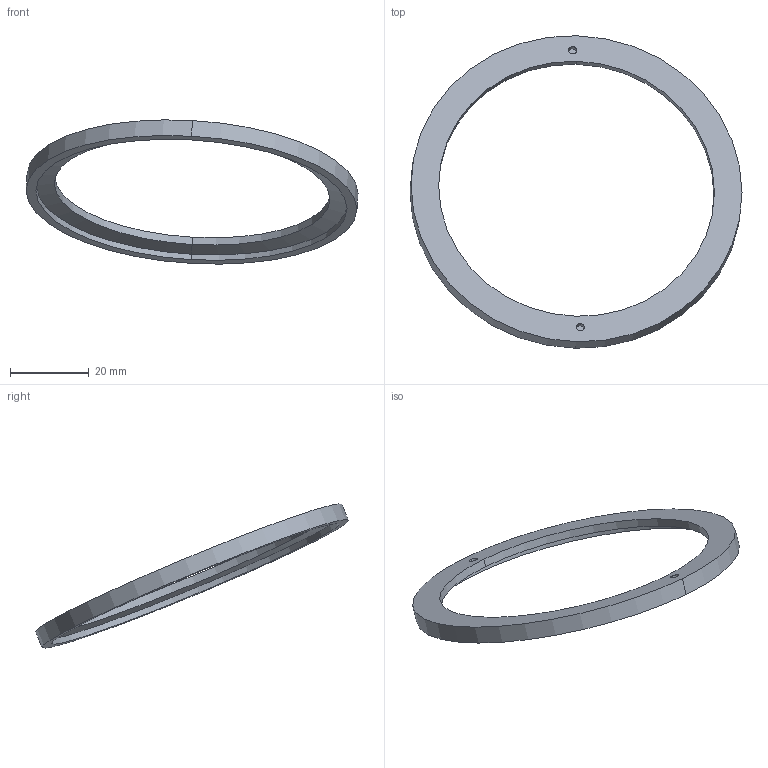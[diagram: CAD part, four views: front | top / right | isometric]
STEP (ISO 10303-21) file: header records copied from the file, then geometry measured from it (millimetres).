
FILE_DESCRIPTION (( 'STEP AP203' ), '1' );
FILE_NAME ('Embout fileté_2_Défaut_sldprt.STEP', '2018-04-06T14:28:42', ( '' ), ( '' ), 'SwSTEP 2.0', 'SolidWorks 2013', '' );
FILE_SCHEMA (( 'CONFIG_CONTROL_DESIGN' ));
Length unit declared in the file: millimetre
Products named in the file (1): Embout fileté_2_Défaut_sldprt
Bounding box: 84.11 x 79.22 x 36.54 mm (x, y, z)
Volume: 5279.2 mm3; surface area: 5368.8 mm2
Topology: 1 solids, 1 shells, 16 faces, 32 edges, 20 vertices
Faces by surface type: cylinder 10, plane 4, cone 2
Entity records: 505 total; most frequent: DIRECTION 86, CARTESIAN_POINT 69, ORIENTED_EDGE 64, AXIS2_PLACEMENT_3D 37, EDGE_CURVE 32, VERTEX_POINT 20, CIRCLE 20, EDGE_LOOP 20
